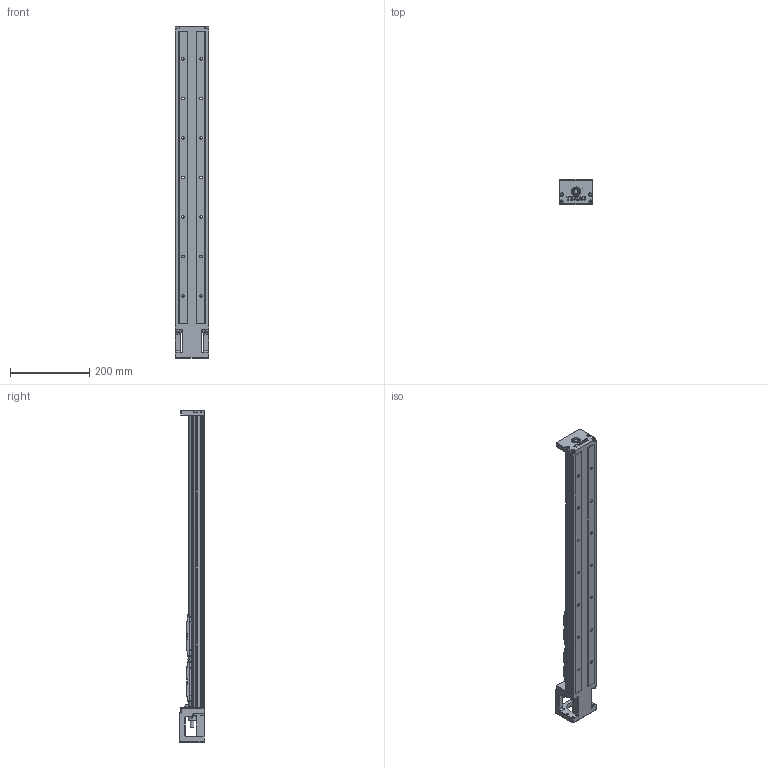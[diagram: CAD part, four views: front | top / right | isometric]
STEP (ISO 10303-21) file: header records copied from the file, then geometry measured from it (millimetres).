
FILE_DESCRIPTION (( 'STEP AP214' ), '1' );
FILE_NAME ('7.0121 KT8610C-740A2-F0.STEP', '2026-03-17T12:05:26', ( '' ), ( '' ), 'SwSTEP 2.0', 'SolidWorks 2025', '' );
FILE_SCHEMA (( 'AUTOMOTIVE_DESIGN' ));
Length unit declared in the file: millimetre
Products named in the file (3): KT86-A1; 7.0121 KT8610C-740A2-F0; KT86-K0_KKR86-ZT-P-740
Assembly tree (3 placements, depth 2):
  7.0121 KT8610C-740A2-F0
    KT86-K0_KKR86-ZT-P-740
    KT86-A1  x2
Bounding box: 86 x 64 x 840.2 mm (x, y, z)
Volume: 1699592.2 mm3; surface area: 411471.4 mm2
Topology: 35 solids, 35 shells, 2011 faces, 5286 edges, 3343 vertices
Faces by surface type: plane 1002, cylinder 661, cone 244, torus 61, sphere 26, bspline 17
Entity records: 56817 total; most frequent: CARTESIAN_POINT 9686, DIRECTION 7069, ORIENTED_EDGE 6892, EDGE_CURVE 3446, AXIS2_PLACEMENT_3D 2495, VERTEX_POINT 2207, LINE 2079, VECTOR 2079
